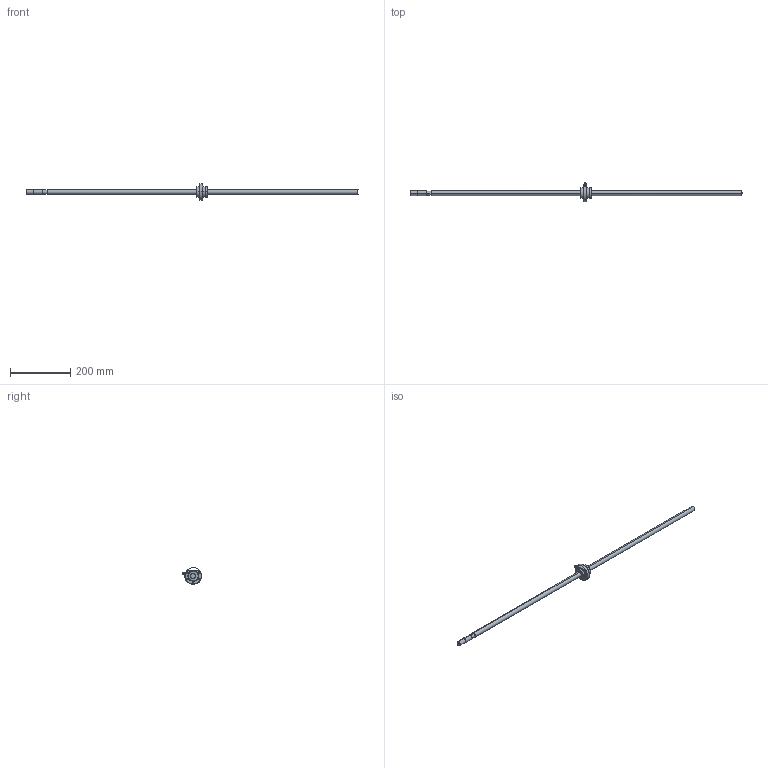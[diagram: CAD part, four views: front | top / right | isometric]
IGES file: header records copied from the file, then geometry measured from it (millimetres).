
Global section: file name: No Iges File Name specified; native system: AutoDesk Inventor R10; preprocessor: AutoDesk Inventor Iges Exporter R10; author: No Author specified; organization: No Organization specified; date: 20101224.134221; units: millimetre
Bounding box: 1100 x 63.9 x 55.96 mm (x, y, z)
Surface area: 67648.7 mm2 (no closed solid volume)
Topology: 0 solids, 0 shells, 77 faces, 503 edges, 499 vertices
Faces by surface type: bspline 77
